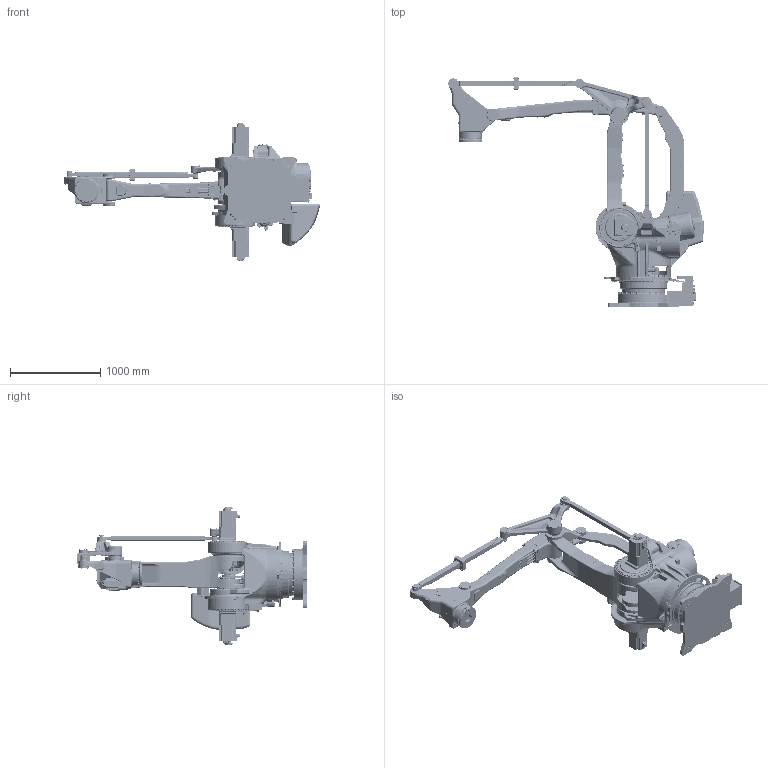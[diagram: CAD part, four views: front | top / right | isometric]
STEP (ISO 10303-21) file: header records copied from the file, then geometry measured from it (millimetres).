
FILE_DESCRIPTION((''),'2;1');
FILE_NAME('ASSY_VIEW_1-04LXH800-A00_ASM','2020-08-20T',('hidemon'),('YASKAWA ELECTRIC CORPORATION'),'PRO/ENGINEER BY PARAMETRIC TECHNOLOGY CORPORATION, 2015030','PRO/ENGINEER BY PARAMETRIC TECHNOLOGY CORPORATION, 2015030','');
FILE_SCHEMA(('CONFIG_CONTROL_DESIGN'));
Products named in the file (14): BASE_VIEW_1-04LXH800-A00; S_VIEW_1-04LXH800-A00; L_VIEW_1-04LXH800-A00; BALANCER_1_VIEW_1-04LXH800-A00; BALANCER_2_VIEW_1-04LXH800-A00; LINKB_VIEW_1-04LXH800-A00; LINKA_VIEW_1-04LXH800-A00; U_VIEW_1-04LXH800-A00; LINKD_VIEW_1-04LXH800-A00; LINKC_VIEW_1-04LXH800-A00; LINKE_VIEW_1-04LXH800-A00; WRIST_VIEW_1-04LXH800-A00; T_VIEW_1-04LXH800-A00; ASSY_VIEW_1-04LXH800-A00_ASM
Assembly tree (13 placements, depth 2):
  ASSY_VIEW_1-04LXH800-A00_ASM
    BASE_VIEW_1-04LXH800-A00
    S_VIEW_1-04LXH800-A00
    L_VIEW_1-04LXH800-A00
    BALANCER_1_VIEW_1-04LXH800-A00
    BALANCER_2_VIEW_1-04LXH800-A00
    LINKB_VIEW_1-04LXH800-A00
    LINKA_VIEW_1-04LXH800-A00
    U_VIEW_1-04LXH800-A00
    LINKD_VIEW_1-04LXH800-A00
    LINKC_VIEW_1-04LXH800-A00
    LINKE_VIEW_1-04LXH800-A00
    WRIST_VIEW_1-04LXH800-A00
    T_VIEW_1-04LXH800-A00
Bounding box: 2835.75 x 2546.42 x 1526.5 mm (x, y, z)
Volume: 521479549.1 mm3; surface area: 17025367.8 mm2
Topology: 13 solids, 35 shells, 12047 faces, 27876 edges, 16887 vertices
Faces by surface type: cylinder 4723, plane 3841, bspline 1468, torus 1213, cone 572, sphere 230
Entity records: 467298 total; most frequent: CARTESIAN_POINT 195517, DIRECTION 59146, ORIENTED_EDGE 55616, EDGE_CURVE 27832, AXIS2_PLACEMENT_3D 24280, VERTEX_POINT 16885, CIRCLE 13672, EDGE_LOOP 13333
